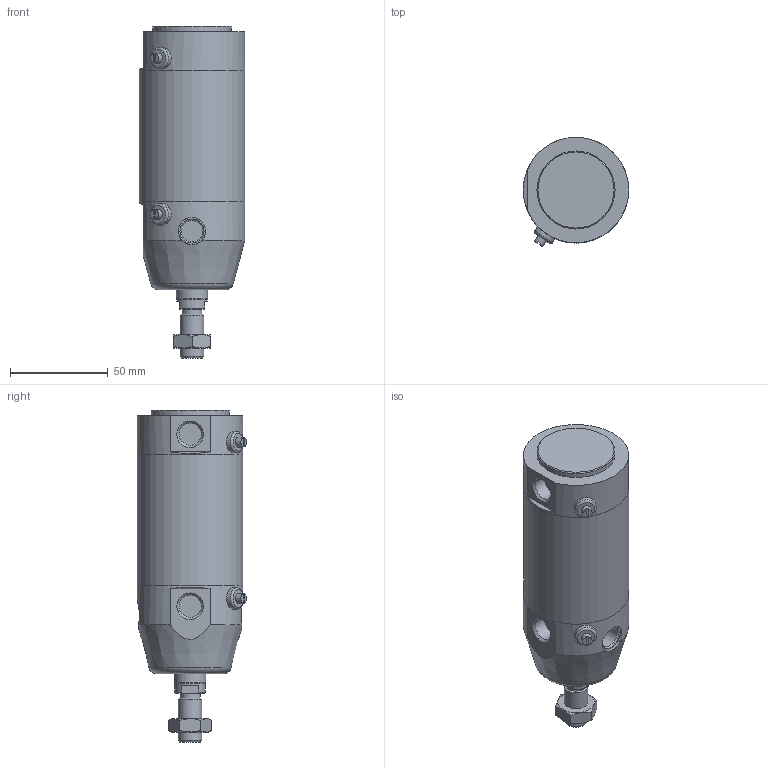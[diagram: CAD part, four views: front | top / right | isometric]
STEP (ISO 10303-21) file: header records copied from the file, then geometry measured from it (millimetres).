
FILE_DESCRIPTION(/* description */ (''),/* implementation_level */ '2;1');
FILE_NAME(/* name */ 'I:\Area Tecnica\Documenti\A-Manieri\_Inventor\12X\12X#E_###_####_#_#\12XBE_050_0025_#_#.stp',/* time_stamp */ '2015-05-08T13:57:44+02:00',/* author */ ('maniean1'),/* organization */ ('Pneumax S.p.A.'),/* preprocessor_version */ 'ST-DEVELOPER v15.2',/* originating_system */ 'Autodesk Inventor 2014',/* authorisation */ '');
FILE_SCHEMA (('AUTOMOTIVE_DESIGN { 1 0 10303 214 3 1 1 }'));
Length unit declared in the file: millimetre
Products named in the file (6): C1250_619-0025; 12X50_623; S12X50_0025; 12X_50_11; 12X50_612; 12XBE_050_0025_#_#
Bounding box: 54 x 55.88 x 170 mm (x, y, z)
Volume: 252604.8 mm3; surface area: 61325.4 mm2
Topology: 5 solids, 5 shells, 83 faces, 174 edges, 112 vertices
Faces by surface type: plane 45, cylinder 22, cone 13, torus 3
Full cylindrical faces by diameter (mm): 5 x2, 10.2 x1, 10.9 x2, 11 x2, 11.4 x2, 12 x2, 14 x1, 14.1 x2, 15.6 x1, 16 x1, 40 x1, 50 x2, 54 x3
Entity records: 2203 total; most frequent: CARTESIAN_POINT 508, DIRECTION 359, ORIENTED_EDGE 254, AXIS2_PLACEMENT_3D 161, EDGE_LOOP 136, EDGE_CURVE 127, VERTEX_POINT 101, ADVANCED_FACE 83
